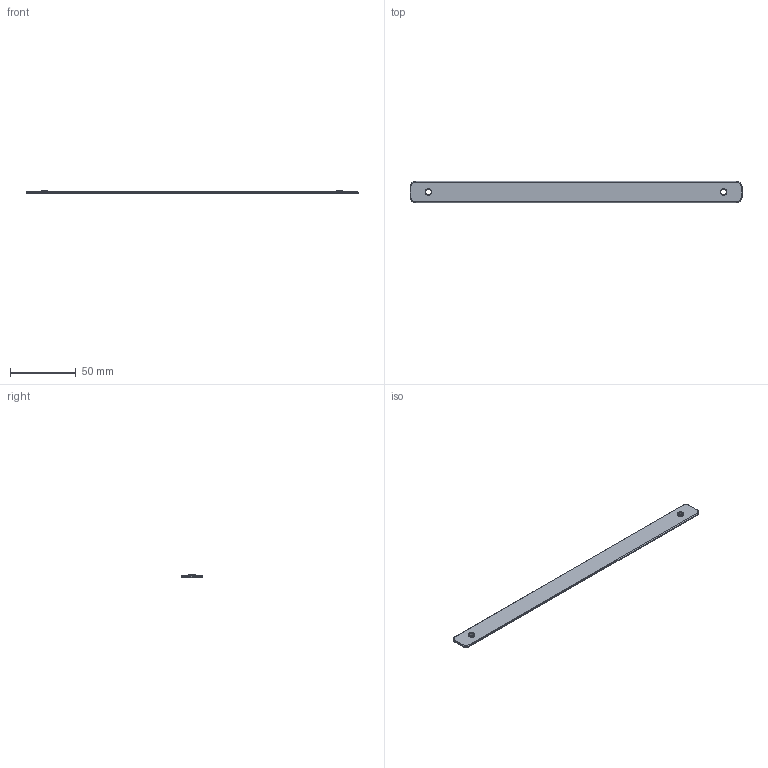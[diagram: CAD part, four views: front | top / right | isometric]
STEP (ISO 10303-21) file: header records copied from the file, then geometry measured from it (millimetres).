
FILE_DESCRIPTION(('Open CASCADE Model'),'2;1');
FILE_NAME('W-BAR-WL224-16','2026-10-19T21:23:53',('Author'),( 'Open CASCADE'),'Open CASCADE STEP processor 8.0','build123d', 'Unknown');
FILE_SCHEMA(('AUTOMOTIVE_DESIGN { 1 0 10303 214 1 1 1 1 }'));
Length unit declared in the file: millimetre
Products named in the file (2): W-BAR-WL224-16; brass_WL224-16__w
Assembly tree (1 placements, depth 2):
  W-BAR-WL224-16
    brass_WL224-16__w
Bounding box: 252 x 16 x 2.49 mm (x, y, z)
Volume: 5942.6 mm3; surface area: 8672.1 mm2
Topology: 1 solids, 1 shells, 32 faces, 68 edges, 40 vertices
Faces by surface type: plane 12, cylinder 12, cone 4, torus 4
Full cylindrical faces by diameter (mm): 4.3 x2, 5 x2
Entity records: 1768 total; most frequent: CARTESIAN_POINT 358, DIRECTION 264, ORIENTED_EDGE 136, PCURVE 136, DEFINITIONAL_REPRESENTATION 136, LINE 124, VECTOR 124, EDGE_CURVE 68
